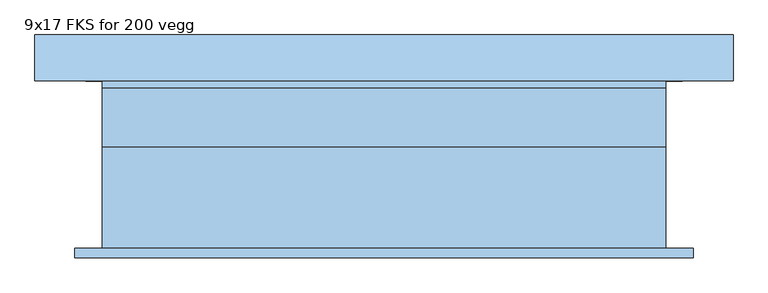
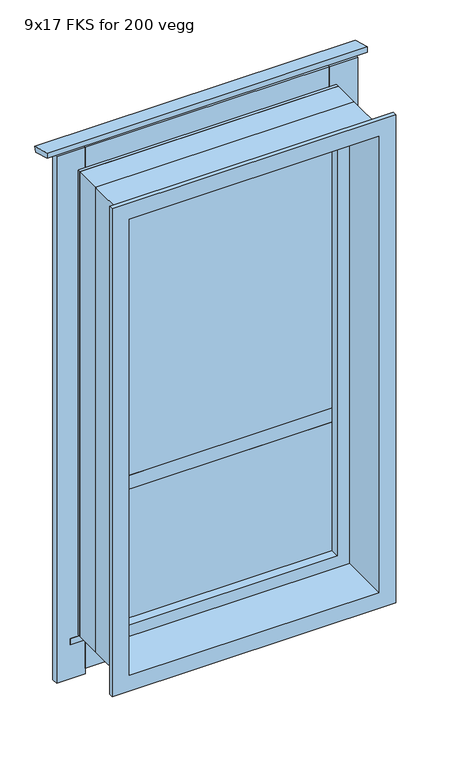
"""IFC4 building model written with IfcOpenShell, lengths in millimetres: window geometry, Vindu FKS 1x2-J : 9x17 FKS for 200 vegg."""

from ifc_helpers import new_model, si_unit, frame, origin, place, context, project, spatial, polyline, outline, extrude, faceted_brep, source, transform, mapped, element, save


def window_9x17_fks_for_200_vegg_c0b3abc5(model_context):
    return source(origin(), model_context, "Body", "SolidModel", [
        extrude(outline(polyline([(204.444437, 2459.1537013), (199.5268751, 2440.8011106), (132.0, 2458.8948822), (132.0, 2478.5651297), (204.444437, 2459.1537013)])), frame((-551.0, 0.0, 0.0), z_axis=(1.0, 0.0, 0.0), x_axis=(0.0, 1.0, 0.0)), (0.0, 0.0, 1.0), 1102.0),
        extrude(outline(polyline([(180.2962913, 670.6791642), (174.6022723, 649.4287961), (132.0, 660.8440405), (132.0, 683.6201165), (180.2962913, 670.6791642)])), frame((-471.0, 0.0, 0.0), z_axis=(1.0, 0.0, 0.0), x_axis=(0.0, 1.0, 0.0)), (0.0, 0.0, 1.0), 942.0),
        extrude(outline(polyline([(-420.0, 132.0), (-420.0, 154.0), (420.0, 154.0), (420.0, 132.0), (-420.0, 132.0)])), frame((0.0, 0.0, 557.0051732), z_axis=(0.0, 0.0, 1.0), x_axis=(1.0, 0.0, 0.0)), (0.0, 0.0, 1.0), 98.0),
        extrude(outline(polyline([(-420.0, 132.0), (-420.0, 154.0), (420.0, 154.0), (420.0, 132.0), (-420.0, 132.0)])), frame((0.0, 0.0, 2355.0), z_axis=(0.0, 0.0, 1.0), x_axis=(1.0, 0.0, 0.0)), (0.0, 0.0, 1.0), 98.0),
        extrude(outline(polyline([(518.0, 132.0), (420.0, 132.0), (420.0, 154.0), (518.0, 154.0), (518.0, 132.0)])), frame((0.0, 0.0, 537.0), z_axis=(0.0, 0.0, 1.0), x_axis=(1.0, 0.0, 0.0)), (0.0, 0.0, 1.0), 1916.0),
        extrude(outline(polyline([(-420.0, 132.0), (-518.0, 132.0), (-518.0, 154.0), (-420.0, 154.0), (-420.0, 132.0)])), frame((0.0, 0.0, 537.0), z_axis=(0.0, 0.0, 1.0), x_axis=(1.0, 0.0, 0.0)), (0.0, 0.0, 1.0), 1916.0),
        extrude(outline(polyline([(1215.0, -406.0), (1215.0, 406.0), (1240.0, 406.0), (1265.0, 406.0), (1265.0, -406.0), (1215.0, -406.0)])), frame((0.0, 60.0, 0.0), z_axis=(0.0, 1.0, 0.0), x_axis=(0.0, 0.0, 1.0)), (0.0, 0.0, 1.0), 60.0),
        extrude(outline(polyline([(-406.0, 84.0), (406.0, 84.0), (406.0, 60.0), (-406.0, 60.0), (-406.0, 84.0)])), frame((0.0, 0.0, 729.0), z_axis=(0.0, 0.0, 1.0), x_axis=(1.0, 0.0, 0.0)), (0.0, 0.0, 1.0), 486.0),
        extrude(outline(polyline([(-406.0, 84.0), (406.0, 84.0), (406.0, 60.0), (-406.0, 60.0), (-406.0, 84.0)])), frame((0.0, 0.0, 1265.0), z_axis=(0.0, 0.0, 1.0), x_axis=(1.0, 0.0, 0.0)), (0.0, 0.0, 1.0), 1076.0),
        faceted_brep([(-445.0, 120.0, 690.0), (-445.0, 28.0, 690.0), (-445.0, 28.0, 2380.0), (-445.0, 120.0, 2380.0), (-406.0, 60.0, 729.0), (-406.0, 120.0, 729.0), (-406.0, 120.0, 2341.0), (-406.0, 60.0, 2341.0), (-388.0, 28.0, 747.0), (-388.0, 60.0, 747.0), (-388.0, 60.0, 2323.0), (-388.0, 28.0, 2323.0), (445.0, 28.0, 2380.0), (445.0, 120.0, 2380.0), (406.0, 120.0, 2341.0), (406.0, 60.0, 2341.0), (388.0, 60.0, 2323.0), (388.0, 28.0, 2323.0), (445.0, 28.0, 690.0), (445.0, 120.0, 690.0), (406.0, 120.0, 729.0), (406.0, 60.0, 729.0), (388.0, 60.0, 747.0), (388.0, 28.0, 747.0)], [[[0, 1, 2, 3]], [[4, 5, 6, 7]], [[8, 9, 10, 11]], [[3, 2, 12, 13]], [[7, 6, 14, 15]], [[11, 10, 16, 17]], [[13, 12, 18, 19]], [[15, 14, 20, 21]], [[17, 16, 22, 23]], [[19, 18, 1, 0]], [[3, 13, 19, 0], [5, 20, 14, 6]], [[21, 20, 5, 4]], [[7, 15, 21, 4], [9, 22, 16, 10]], [[23, 22, 9, 8]], [[1, 18, 12, 2], [11, 17, 23, 8]]]),
        extrude(outline(polyline([(690.0, 420.0), (690.0, 445.0), (2380.0, 445.0), (2380.0, -445.0), (690.0, -445.0), (690.0, -420.0), (2355.0, -420.0), (2355.0, 420.0), (690.0, 420.0)])), frame((0.0, 120.0, 0.0), z_axis=(0.0, 1.0, 0.0), x_axis=(0.0, 0.0, 1.0)), (0.0, 0.0, 1.0), 12.0),
        faceted_brep([(-445.0, -132.0, 690.0), (-445.0, 28.0, 690.0), (445.0, 28.0, 690.0), (445.0, -132.0, 690.0), (445.0, 28.0, 2380.0), (445.0, -132.0, 2380.0), (-445.0, 28.0, 2380.0), (430.0, 28.0, 2365.0), (-430.0, 28.0, 2365.0), (-430.0, 28.0, 705.0), (430.0, 28.0, 705.0), (488.0, -132.0, 647.0), (-488.0, -132.0, 647.0), (-488.0, -132.0, 2423.0), (488.0, -132.0, 2423.0), (-445.0, -132.0, 2380.0), (-488.0, -147.0, 647.0), (488.0, -147.0, 647.0), (488.0, -147.0, 2423.0), (-488.0, -147.0, 2423.0), (430.0, -147.0, 705.0), (-430.0, -147.0, 705.0), (-430.0, -147.0, 2365.0), (430.0, -147.0, 2365.0)], [[[0, 1, 2, 3]], [[3, 2, 4, 5]], [[2, 1, 6, 4], [7, 8, 9, 10]], [[11, 12, 13, 14], [5, 15, 0, 3]], [[16, 12, 11, 17]], [[17, 11, 14, 18]], [[18, 19, 16, 17], [20, 21, 22, 23]], [[9, 21, 20, 10]], [[10, 20, 23, 7]], [[15, 6, 1, 0]], [[19, 13, 12, 16]], [[8, 22, 21, 9]], [[5, 4, 6, 15]], [[18, 14, 13, 19]], [[7, 23, 22, 8]]]),
    ])


if __name__ == "__main__":
    model = new_model("IFC4")
    model_context = context("Model", 3, world=origin())
    ifc_project = project(units=[si_unit("LENGTHUNIT", "METRE", prefix="MILLI")], contexts=[model_context])
    site = spatial("IfcSite", under=ifc_project)
    building = spatial("IfcBuilding", under=site)
    placement = place(None, origin())
    window_9x17_fks_for_200_vegg_shape = window_9x17_fks_for_200_vegg_c0b3abc5(model_context)
    element("IfcWindow", 1, ObjectType="Vindu FKS 1x2-J : 9x17 FKS for 200 vegg", at=placement, inside=building, context=model_context, shape_type="MappedRepresentation", body=[
        mapped(window_9x17_fks_for_200_vegg_shape, transform((0.0, 0.0, 0.0), x_axis=(1.0, 0.0, 0.0), y_axis=(0.0, 1.0, 0.0), z_axis=(0.0, 0.0, 1.0))),
    ])
    save(model, "model.ifc")
